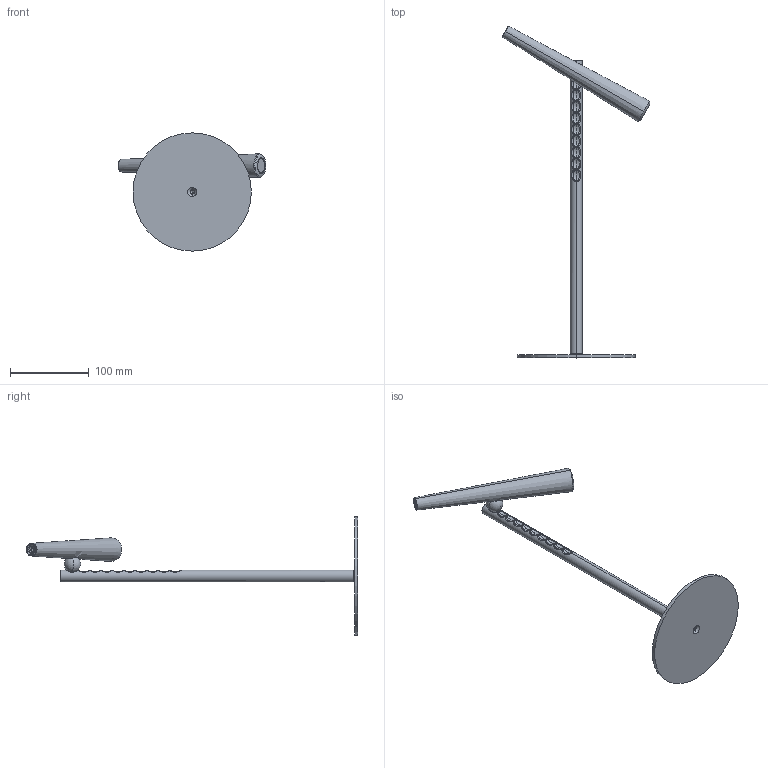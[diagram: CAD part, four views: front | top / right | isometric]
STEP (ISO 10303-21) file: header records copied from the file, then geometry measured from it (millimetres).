
FILE_DESCRIPTION (( 'STEP AP214' ), '1' );
FILE_NAME ('202_STD_T_LD_3D.STEP', '2021-04-29T12:19:08', ( '' ), ( '' ), 'SwSTEP 2.0', 'SolidWorks 2021', '' );
FILE_SCHEMA (( 'AUTOMOTIVE_DESIGN' ));
Length unit declared in the file: millimetre
Products named in the file (1): 202_STD_T_LD_3D
Bounding box: 187.28 x 420.76 x 150 mm (x, y, z)
Volume: 159161.8 mm3; surface area: 94805.1 mm2
Topology: 8 solids, 8 shells, 310 faces, 789 edges, 480 vertices
Faces by surface type: plane 78, sphere 65, torus 54, cylinder 47, cone 38, bspline 28
Entity records: 16930 total; most frequent: CARTESIAN_POINT 6200, ORIENTED_EDGE 1540, DIRECTION 1538, EDGE_CURVE 770, AXIS2_PLACEMENT_3D 688, VERTEX_POINT 470, CIRCLE 405, EDGE_LOOP 336
